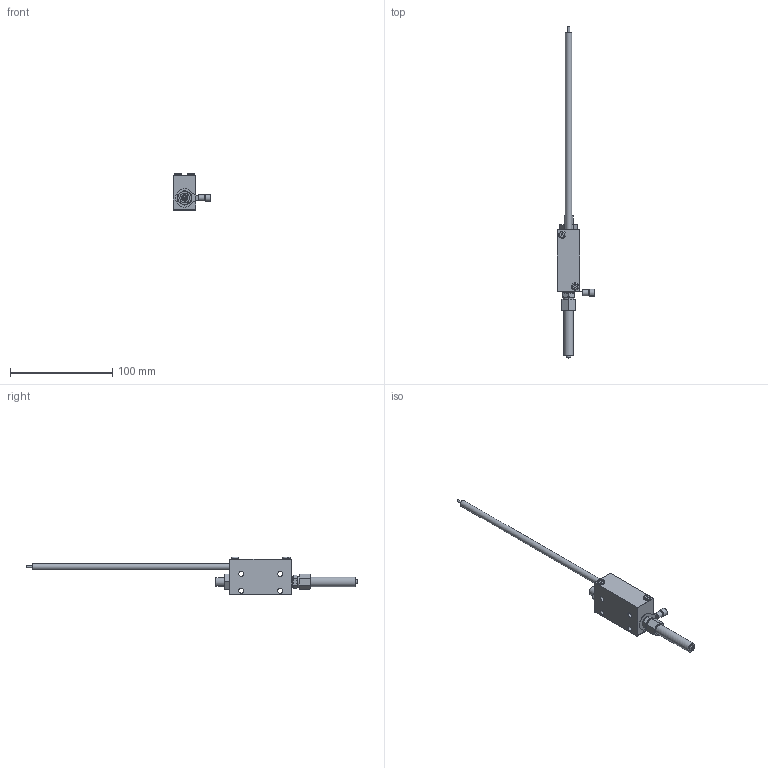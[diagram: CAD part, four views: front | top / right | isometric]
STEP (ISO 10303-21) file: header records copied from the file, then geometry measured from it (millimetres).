
FILE_DESCRIPTION(/* description */ (''),/* implementation_level */ '2;1');
FILE_NAME(/* name */ 'BW 3-8',/* time_stamp */ '2014-11-18T10:56:12+01:00',/* author */ (''),/* organization */ (''),/* preprocessor_version */ 'ST-DEVELOPER v15.7',/* originating_system */ 'HiCAD 2014 1902.0 Build 420',/* authorisation */ '');
FILE_SCHEMA (('AUTOMOTIVE_DESIGN { 1 0 10303 214 1 1 1 1 }'));
Length unit declared in the file: millimetre
Products named in the file (2): Root; BW 3-8
Assembly tree (1 placements, depth 2):
  Root
    BW 3-8
Bounding box: 36.6 x 324.3 x 36.9 mm (x, y, z)
Volume: 57027.6 mm3; surface area: 19484.2 mm2
Topology: 2 solids, 2 shells, 128 faces, 288 edges, 183 vertices
Faces by surface type: plane 62, cone 35, cylinder 29, torus 2
Full cylindrical faces by diameter (mm): 1.5 x1, 1.65 x1, 2 x2, 2.5 x1, 4 x1, 4.04 x1, 4.5 x1, 4.9 x4, 5 x1, 6 x1, 6.2 x1, 6.3 x1, 7 x3, 8.566 x1, 9.5 x1, 10.5 x1
Entity records: 6033 total; most frequent: CARTESIAN_POINT 860, PRESENTATION_STYLE_ASSIGNMENT 574, OVER_RIDING_STYLED_ITEM 572, DIRECTION 559, DRAUGHTING_PRE_DEFINED_CURVE_FONT 498, CURVE_STYLE 498, ORIENTED_EDGE 498, EDGE_CURVE 249
